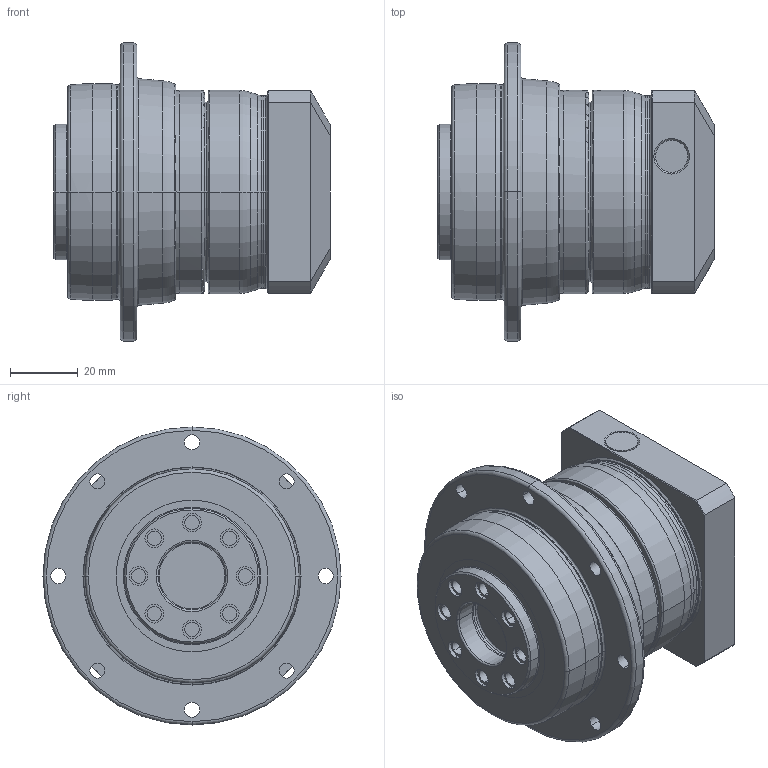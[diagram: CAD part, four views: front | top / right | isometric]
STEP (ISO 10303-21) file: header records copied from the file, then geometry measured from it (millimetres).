
FILE_DESCRIPTION((''),'2;1');
FILE_NAME('PD064_1ST_11-P0411200101_ASM','2016-06-02T',('d01943'),(''),'PRO/ENGINEER BY PARAMETRIC TECHNOLOGY CORPORATION, 2008410','PRO/ENGINEER BY PARAMETRIC TECHNOLOGY CORPORATION, 2008410','');
FILE_SCHEMA(('CONFIG_CONTROL_DESIGN'));
Length unit declared in the file: millimetre
Products named in the file (8): P1355200001; P0367200001; P0274200001; P1324200101; P0411200101; P0503200005; P0941201001; PD064_1ST_11-P0411200101_ASM
Assembly tree (7 placements, depth 2):
  PD064_1ST_11-P0411200101_ASM
    P1355200001
    P0367200001
    P0274200001
    P1324200101
    P0411200101
    P0503200005
    P0941201001
Bounding box: 81.5 x 88 x 88 mm (x, y, z)
Volume: 236356.2 mm3; surface area: 64435.3 mm2
Topology: 7 solids, 7 shells, 377 faces, 867 edges, 510 vertices
Faces by surface type: cylinder 129, cone 96, torus 74, plane 64, bspline 14
Entity records: 15232 total; most frequent: CARTESIAN_POINT 6455, DIRECTION 1965, ORIENTED_EDGE 1686, AXIS2_PLACEMENT_3D 843, EDGE_CURVE 843, VERTEX_POINT 510, CIRCLE 465, EDGE_LOOP 447
